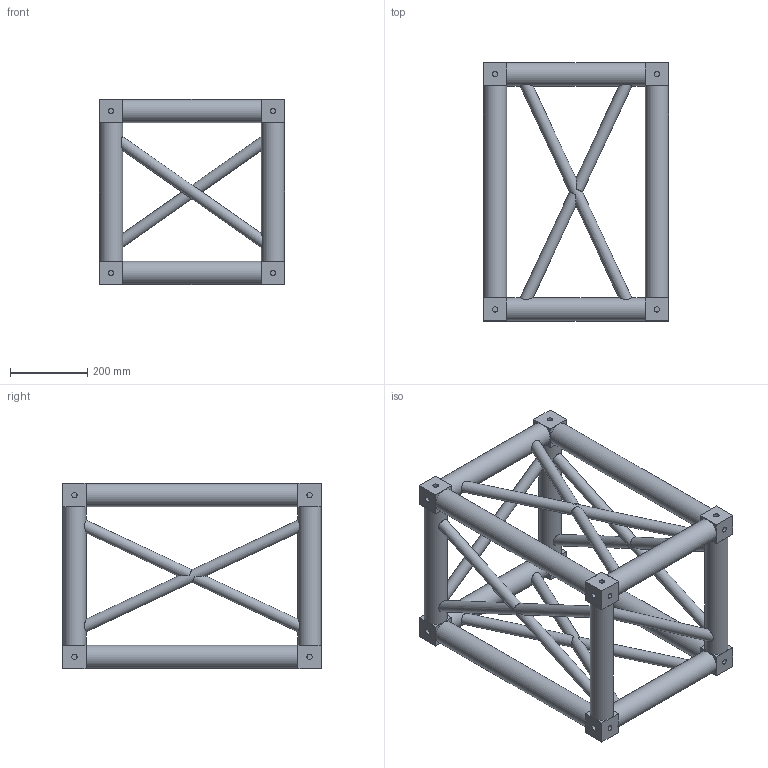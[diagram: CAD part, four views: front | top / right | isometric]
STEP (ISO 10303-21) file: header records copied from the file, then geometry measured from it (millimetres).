
FILE_DESCRIPTION(/* description */ (''),/* implementation_level */ '2;1');
FILE_NAME(/* name */ 'M:\Symbolen_NIEUW\STP\Boxcorner\111130033.stp',/* time_stamp */ '2015-05-19T14:24:39+02:00',/* author */ ('Stephan'),/* organization */ (''),/* preprocessor_version */ 'ST-DEVELOPER v15.6',/* originating_system */ 'Autodesk Inventor 2015',/* authorisation */ '');
FILE_SCHEMA (('AUTOMOTIVE_DESIGN { 1 0 10303 214 3 1 1 }'));
Length unit declared in the file: millimetre
Products named in the file (1): 160024219
Bounding box: 480 x 670 x 480 mm (x, y, z)
Volume: 19878664.8 mm3; surface area: 1621965.3 mm2
Topology: 1 solids, 1 shells, 259 faces, 660 edges, 379 vertices
Faces by surface type: plane 185, cylinder 74
Full cylindrical faces by diameter (mm): 13.835 x48, 30 x14, 60 x12
Entity records: 8138 total; most frequent: CARTESIAN_POINT 1939, DIRECTION 1362, ORIENTED_EDGE 1054, AXIS2_PLACEMENT_3D 597, EDGE_CURVE 527, EDGE_LOOP 385, VERTEX_POINT 326, STYLED_ITEM 260
